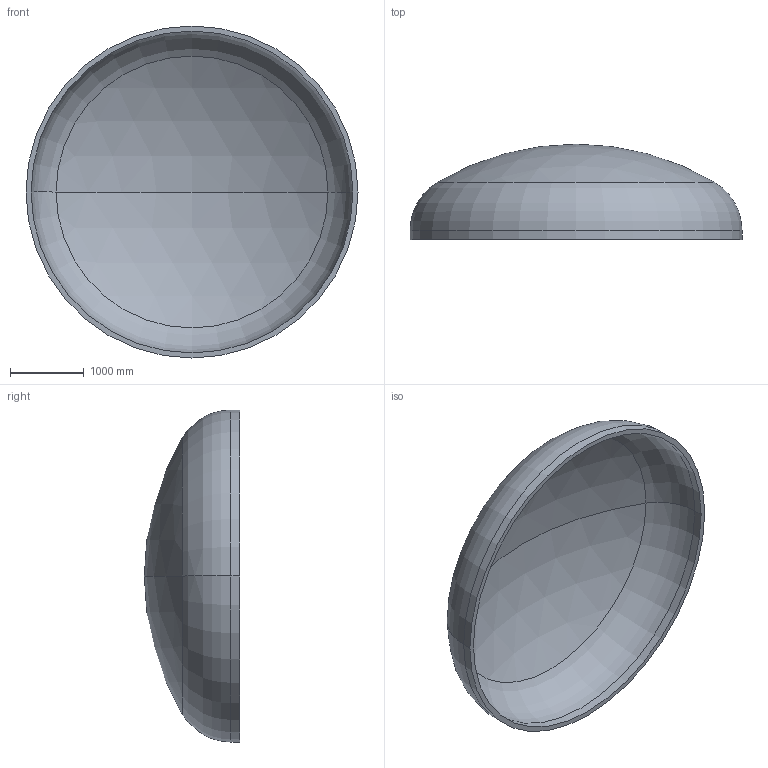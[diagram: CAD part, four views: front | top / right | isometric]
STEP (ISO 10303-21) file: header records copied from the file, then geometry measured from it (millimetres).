
FILE_DESCRIPTION (( 'STEP AP203' ), '1' );
FILE_NAME ('DIN 28013 Korbbogenform_-_Boden DIN 28013 - 4500 x 120 - I - s=68.step', '2016-07-01T23:38:53', ( '' ), ( '' ), 'SwSTEP 2.0', 'SolidWorks 2013', '' );
FILE_SCHEMA (( 'CONFIG_CONTROL_DESIGN' ));
Length unit declared in the file: millimetre
Products named in the file (1): DIN 28013 Korbbogenform_-_Boden DIN 28013 - 4500 x 120 - I - s=68
Bounding box: 4500 x 1292.43 x 4500 mm (x, y, z)
Volume: 1582712477.7 mm3; surface area: 47506835.2 mm2
Topology: 1 solids, 1 shells, 13 faces, 24 edges, 14 vertices
Faces by surface type: torus 4, cylinder 4, sphere 4, plane 1
Entity records: 407 total; most frequent: DIRECTION 72, CARTESIAN_POINT 52, ORIENTED_EDGE 48, AXIS2_PLACEMENT_3D 34, EDGE_CURVE 24, CIRCLE 20, VERTEX_POINT 14, EDGE_LOOP 14
